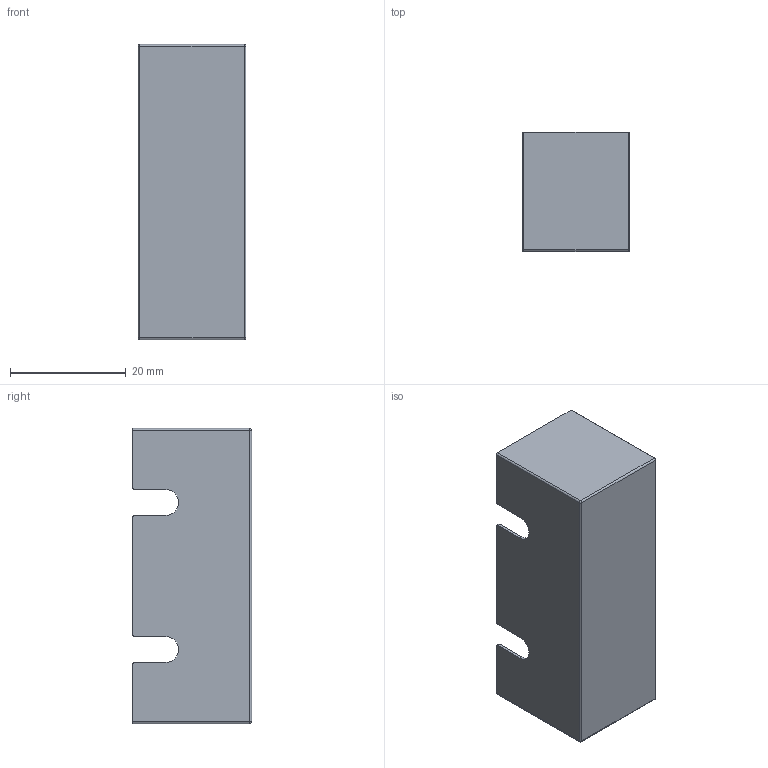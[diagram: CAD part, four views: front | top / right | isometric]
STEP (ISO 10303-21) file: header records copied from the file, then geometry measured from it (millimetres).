
FILE_DESCRIPTION(/* description */ (''),/* implementation_level */ '2;1');
FILE_NAME(/* name */ 'E:\Inventor 2016\제품 외형도\(\X2\C644B8CC\X0\) 리미트 스위치\교류용 마이크로 스위치 (Z형)\YSMS-C.stp',/* time_stamp */ '2019-04-09T09:57:13+09:00',/* author */ ('Kim'),/* organization */ (''),/* preprocessor_version */ 'ST-DEVELOPER v16.1',/* originating_system */ 'Autodesk Inventor 2016',/* authorisation */ '');
FILE_SCHEMA (('AUTOMOTIVE_DESIGN { 1 0 10303 214 3 1 1 }'));
Length unit declared in the file: millimetre
Products named in the file (1): YSMS-C
Bounding box: 18.6 x 20.6 x 51 mm (x, y, z)
Volume: 1786.6 mm3; surface area: 7187.4 mm2
Topology: 1 solids, 1 shells, 58 faces, 144 edges, 88 vertices
Faces by surface type: cylinder 28, plane 22, sphere 8
Entity records: 1736 total; most frequent: DIRECTION 318, CARTESIAN_POINT 291, ORIENTED_EDGE 288, EDGE_CURVE 144, AXIS2_PLACEMENT_3D 115, LINE 88, VECTOR 88, VERTEX_POINT 88
